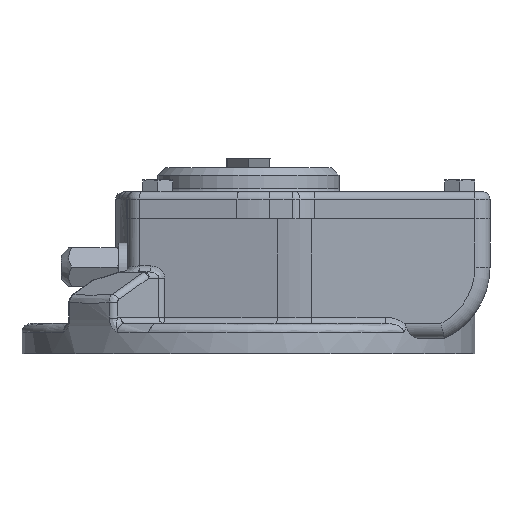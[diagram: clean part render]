
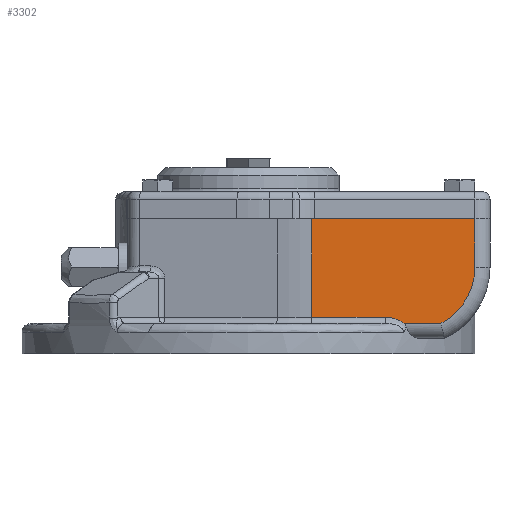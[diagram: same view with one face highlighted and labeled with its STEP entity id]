
A CAD part, left-side view. The second image highlights one B-rep face of the part: STEP entity #3302.
In plain terms, the highlighted planar face has unit normal (-1, 0, 0).
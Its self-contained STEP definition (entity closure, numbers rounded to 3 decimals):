
#3302 = ADVANCED_FACE( '', ( #6965 ), #6966, .T. );
#6965 = FACE_OUTER_BOUND( '', #20662, .T. );
#6966 = PLANE( '', #20663 );
#20662 = EDGE_LOOP( '', ( #33973, #33974, #33975, #33976, #33977, #33978, #33979, #33980 ) );
#20663 = AXIS2_PLACEMENT_3D( '', #33981, #33982, #33983 );
#33973 = ORIENTED_EDGE( '', *, *, #38708, .T. );
#33974 = ORIENTED_EDGE( '', *, *, #39540, .T. );
#33975 = ORIENTED_EDGE( '', *, *, #39874, .T. );
#33976 = ORIENTED_EDGE( '', *, *, #39710, .T. );
#33977 = ORIENTED_EDGE( '', *, *, #37595, .T. );
#33978 = ORIENTED_EDGE( '', *, *, #39577, .T. );
#33979 = ORIENTED_EDGE( '', *, *, #39238, .T. );
#33980 = ORIENTED_EDGE( '', *, *, #38377, .T. );
#33981 = CARTESIAN_POINT( '', ( -54., -52., 31.6 ) );
#33982 = DIRECTION( '', ( -1., 0., 0. ) );
#33983 = DIRECTION( '', ( 0., 1., 0. ) );
#37595 = EDGE_CURVE( '', #43061, #43059, #43062, .F. );
#38377 = EDGE_CURVE( '', #44207, #44209, #44211, .F. );
#38708 = EDGE_CURVE( '', #44209, #44664, #44666, .F. );
#39238 = EDGE_CURVE( '', #45369, #44207, #45370, .F. );
#39540 = EDGE_CURVE( '', #44664, #45727, #45729, .T. );
#39577 = EDGE_CURVE( '', #43059, #45369, #45772, .T. );
#39710 = EDGE_CURVE( '', #45920, #43061, #45921, .T. );
#39874 = EDGE_CURVE( '', #45727, #45920, #46105, .T. );
#43059 = VERTEX_POINT( '', #53689 );
#43061 = VERTEX_POINT( '', #53691 );
#43062 = LINE( '', #53692, #53693 );
#44207 = VERTEX_POINT( '', #56281 );
#44209 = VERTEX_POINT( '', #56304 );
#44211 = LINE( '', #56325, #56326 );
#44664 = VERTEX_POINT( '', #57661 );
#44666 = CIRCLE( '', #57663, 21. );
#45369 = VERTEX_POINT( '', #59608 );
#45370 = LINE( '', #59609, #59610 );
#45727 = VERTEX_POINT( '', #60961 );
#45729 = LINE( '', #60963, #60964 );
#45772 = B_SPLINE_CURVE_WITH_KNOTS( '', 3, ( #61023, #61024, #61025, #61026, #61027, #61028, #61029, #61030, #61031, #61032, #61033, #61034, #61035, #61036, #61037, #61038, #61039, #61040, #61041, #61042, #61043, #61044, #61045, #61046, #61047, #61048, #61049, #61050, #61051, #61052, #61053, #61054, #61055, #61056, #61057, #61058, #61059 ), .UNSPECIFIED., .F., .F., ( 4, 1, 1, 1, 1, 1, 2, 2, 2, 2, 2, 2, 2, 2, 2, 1, 2, 2, 2, 2, 1, 4 ), ( 0., 0., 0.001, 0.001, 0.002, 0.002, 0.003, 0.003, 0.004, 0.004, 0.004, 0.004, 0.005, 0.005, 0.006, 0.006, 0.006, 0.006, 0.007, 0.007, 0.007, 0.008 ), .UNSPECIFIED. );
#45920 = VERTEX_POINT( '', #61499 );
#45921 = LINE( '', #61500, #61501 );
#46105 = LINE( '', #62129, #62130 );
#53689 = CARTESIAN_POINT( '', ( -54., -45.255, 15. ) );
#53691 = CARTESIAN_POINT( '', ( -54., -21., 15. ) );
#53692 = CARTESIAN_POINT( '', ( -54., -47.624, 15. ) );
#53693 = VECTOR( '', #64696, 1000. );
#56281 = CARTESIAN_POINT( '', ( -54., -52.048, 13. ) );
#56304 = CARTESIAN_POINT( '', ( -54., -63.749, 13. ) );
#56325 = CARTESIAN_POINT( '', ( -54., -64.911, 13. ) );
#56326 = VECTOR( '', #65622, 1000. );
#57661 = CARTESIAN_POINT( '', ( -54., -75., 31.6 ) );
#57663 = AXIS2_PLACEMENT_3D( '', #65984, #65985, #65986 );
#59608 = CARTESIAN_POINT( '', ( -54., -52.048, 12.275 ) );
#59609 = CARTESIAN_POINT( '', ( -54., -52.048, 13. ) );
#59610 = VECTOR( '', #66521, 1000. );
#60961 = CARTESIAN_POINT( '', ( -54., -75., 47.6 ) );
#60963 = CARTESIAN_POINT( '', ( -54., -75., 8. ) );
#60964 = VECTOR( '', #66780, 1000. );
#61023 = CARTESIAN_POINT( '', ( -54., -45.255, 15. ) );
#61024 = CARTESIAN_POINT( '', ( -54., -45.413, 15. ) );
#61025 = CARTESIAN_POINT( '', ( -54., -45.73, 14.994 ) );
#61026 = CARTESIAN_POINT( '', ( -54., -46.201, 14.967 ) );
#61027 = CARTESIAN_POINT( '', ( -54., -46.669, 14.922 ) );
#61028 = CARTESIAN_POINT( '', ( -54., -47.134, 14.858 ) );
#61029 = CARTESIAN_POINT( '', ( -54., -47.595, 14.775 ) );
#61030 = CARTESIAN_POINT( '', ( -54., -47.901, 14.706 ) );
#61031 = CARTESIAN_POINT( '', ( -54., -48.205, 14.63 ) );
#61032 = CARTESIAN_POINT( '', ( -54., -48.356, 14.589 ) );
#61033 = CARTESIAN_POINT( '', ( -54., -48.658, 14.498 ) );
#61034 = CARTESIAN_POINT( '', ( -54., -48.808, 14.449 ) );
#61035 = CARTESIAN_POINT( '', ( -54., -48.995, 14.382 ) );
#61036 = CARTESIAN_POINT( '', ( -54., -49.032, 14.369 ) );
#61037 = CARTESIAN_POINT( '', ( -54., -49.107, 14.341 ) );
#61038 = CARTESIAN_POINT( '', ( -54., -49.144, 14.327 ) );
#61039 = CARTESIAN_POINT( '', ( -54., -49.255, 14.284 ) );
#61040 = CARTESIAN_POINT( '', ( -54., -49.329, 14.254 ) );
#61041 = CARTESIAN_POINT( '', ( -54., -49.548, 14.162 ) );
#61042 = CARTESIAN_POINT( '', ( -54., -49.693, 14.097 ) );
#61043 = CARTESIAN_POINT( '', ( -54., -49.976, 13.958 ) );
#61044 = CARTESIAN_POINT( '', ( -54., -50.116, 13.884 ) );
#61045 = CARTESIAN_POINT( '', ( -54., -50.39, 13.728 ) );
#61046 = CARTESIAN_POINT( '', ( -54., -50.525, 13.646 ) );
#61047 = CARTESIAN_POINT( '', ( -54., -50.723, 13.515 ) );
#61048 = CARTESIAN_POINT( '', ( -54., -50.821, 13.447 ) );
#61049 = CARTESIAN_POINT( '', ( -54., -50.918, 13.377 ) );
#61050 = CARTESIAN_POINT( '', ( -54., -50.982, 13.329 ) );
#61051 = CARTESIAN_POINT( '', ( -54., -51.014, 13.305 ) );
#61052 = CARTESIAN_POINT( '', ( -54., -51.171, 13.183 ) );
#61053 = CARTESIAN_POINT( '', ( -54., -51.293, 13.081 ) );
#61054 = CARTESIAN_POINT( '', ( -54., -51.526, 12.868 ) );
#61055 = CARTESIAN_POINT( '', ( -54., -51.638, 12.756 ) );
#61056 = CARTESIAN_POINT( '', ( -54., -51.798, 12.582 ) );
#61057 = CARTESIAN_POINT( '', ( -54., -51.902, 12.463 ) );
#61058 = CARTESIAN_POINT( '', ( -54., -52., 12.338 ) );
#61059 = CARTESIAN_POINT( '', ( -54., -52.048, 12.275 ) );
#61499 = CARTESIAN_POINT( '', ( -54., -21., 47.6 ) );
#61500 = CARTESIAN_POINT( '', ( -54., -21., 50.6 ) );
#61501 = VECTOR( '', #66897, 1000. );
#62129 = CARTESIAN_POINT( '', ( -54., -80., 47.6 ) );
#62130 = VECTOR( '', #67017, 1000. );
#64696 = DIRECTION( '', ( 0., 1., 0. ) );
#65622 = DIRECTION( '', ( 0., 1., 0. ) );
#65984 = CARTESIAN_POINT( '', ( -54., -54., 31.6 ) );
#65985 = DIRECTION( '', ( 1., 0., 0. ) );
#65986 = DIRECTION( '', ( 0., 1., 0. ) );
#66521 = DIRECTION( '', ( 0., 0., -1. ) );
#66780 = DIRECTION( '', ( 0., 0., 1. ) );
#66897 = DIRECTION( '', ( 0., 0., -1. ) );
#67017 = DIRECTION( '', ( 0., 1., 0. ) );
